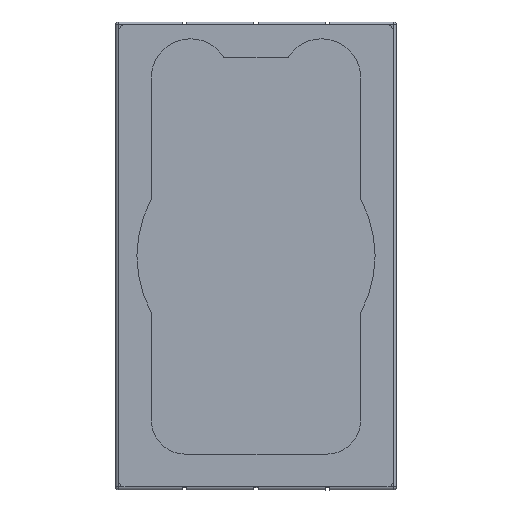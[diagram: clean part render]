
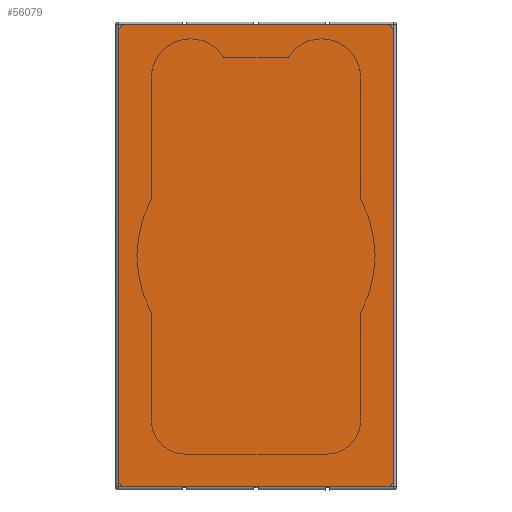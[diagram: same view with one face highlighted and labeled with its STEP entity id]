
A CAD part, top view. The second image highlights one B-rep face of the part: STEP entity #56079.
In plain terms, the highlighted planar face has unit normal (0, 0, 1).
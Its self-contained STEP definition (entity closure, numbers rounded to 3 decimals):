
#3291=PLANE('',#59441);
#5020=FACE_OUTER_BOUND('',#8314,.T.);
#8314=EDGE_LOOP('',(#38230,#38231,#38232,#38233,#38234,#38235,#38236,#38237));
#12088=LINE('',#79943,#16979);
#12089=LINE('',#79947,#16980);
#12090=LINE('',#79951,#16981);
#12091=LINE('',#79954,#16982);
#16979=VECTOR('',#64668,1000.);
#16980=VECTOR('',#64671,1000.);
#16981=VECTOR('',#64674,1000.);
#16982=VECTOR('',#64677,1000.);
#21873=CIRCLE('',#59442,7.);
#21874=CIRCLE('',#59443,7.);
#21875=CIRCLE('',#59444,7.);
#21876=CIRCLE('',#59445,7.);
#23953=VERTEX_POINT('',#79939);
#23954=VERTEX_POINT('',#79940);
#23955=VERTEX_POINT('',#79942);
#23956=VERTEX_POINT('',#79944);
#23957=VERTEX_POINT('',#79946);
#23958=VERTEX_POINT('',#79948);
#23959=VERTEX_POINT('',#79950);
#23960=VERTEX_POINT('',#79952);
#29587=EDGE_CURVE('',#23953,#23954,#21873,.T.);
#29588=EDGE_CURVE('',#23954,#23955,#12088,.T.);
#29589=EDGE_CURVE('',#23955,#23956,#21874,.T.);
#29590=EDGE_CURVE('',#23956,#23957,#12089,.T.);
#29591=EDGE_CURVE('',#23957,#23958,#21875,.T.);
#29592=EDGE_CURVE('',#23958,#23959,#12090,.T.);
#29593=EDGE_CURVE('',#23959,#23960,#21876,.T.);
#29594=EDGE_CURVE('',#23960,#23953,#12091,.T.);
#38230=ORIENTED_EDGE('',*,*,#29587,.T.);
#38231=ORIENTED_EDGE('',*,*,#29588,.T.);
#38232=ORIENTED_EDGE('',*,*,#29589,.T.);
#38233=ORIENTED_EDGE('',*,*,#29590,.T.);
#38234=ORIENTED_EDGE('',*,*,#29591,.T.);
#38235=ORIENTED_EDGE('',*,*,#29592,.T.);
#38236=ORIENTED_EDGE('',*,*,#29593,.T.);
#38237=ORIENTED_EDGE('',*,*,#29594,.T.);
#56079=ADVANCED_FACE('',(#5020),#3291,.T.);
#59441=AXIS2_PLACEMENT_3D('',#79938,#64664,#64665);
#59442=AXIS2_PLACEMENT_3D('',#79941,#64666,#64667);
#59443=AXIS2_PLACEMENT_3D('',#79945,#64669,#64670);
#59444=AXIS2_PLACEMENT_3D('',#79949,#64672,#64673);
#59445=AXIS2_PLACEMENT_3D('',#79953,#64675,#64676);
#64664=DIRECTION('center_axis',(0.,0.,1.));
#64665=DIRECTION('ref_axis',(1.,0.,0.));
#64666=DIRECTION('center_axis',(0.,0.,1.));
#64667=DIRECTION('ref_axis',(-1.,0.,0.));
#64668=DIRECTION('',(0.,-1.,0.));
#64669=DIRECTION('center_axis',(0.,0.,1.));
#64670=DIRECTION('ref_axis',(-1.,0.,0.));
#64671=DIRECTION('',(1.,0.,0.));
#64672=DIRECTION('center_axis',(0.,0.,1.));
#64673=DIRECTION('ref_axis',(-1.,0.,0.));
#64674=DIRECTION('',(0.,1.,0.));
#64675=DIRECTION('center_axis',(0.,0.,1.));
#64676=DIRECTION('ref_axis',(-1.,0.,0.));
#64677=DIRECTION('',(-1.,0.,0.));
#79938=CARTESIAN_POINT('Origin',(-188.086,-224.093,81.52));
#79939=CARTESIAN_POINT('',(-188.086,262.907,81.52));
#79940=CARTESIAN_POINT('',(-195.086,255.907,81.52));
#79941=CARTESIAN_POINT('Origin',(-188.086,255.907,81.52));
#79942=CARTESIAN_POINT('',(-195.086,-224.093,81.52));
#79943=CARTESIAN_POINT('',(-195.086,-224.093,81.52));
#79944=CARTESIAN_POINT('',(-188.086,-231.093,81.52));
#79945=CARTESIAN_POINT('Origin',(-188.086,-224.093,81.52));
#79946=CARTESIAN_POINT('',(91.914,-231.093,81.52));
#79947=CARTESIAN_POINT('',(-188.086,-231.093,81.52));
#79948=CARTESIAN_POINT('',(98.914,-224.093,81.52));
#79949=CARTESIAN_POINT('Origin',(91.914,-224.093,81.52));
#79950=CARTESIAN_POINT('',(98.914,255.907,81.52));
#79951=CARTESIAN_POINT('',(98.914,-224.093,81.52));
#79952=CARTESIAN_POINT('',(91.914,262.907,81.52));
#79953=CARTESIAN_POINT('Origin',(91.914,255.907,81.52));
#79954=CARTESIAN_POINT('',(-188.086,262.907,81.52));
